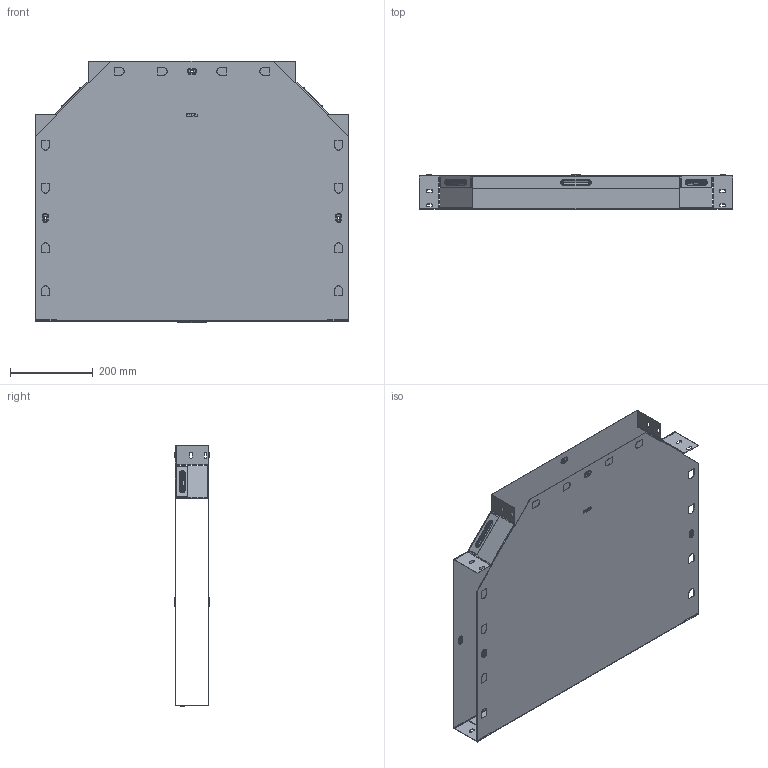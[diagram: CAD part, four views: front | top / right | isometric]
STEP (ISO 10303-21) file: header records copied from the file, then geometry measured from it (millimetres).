
FILE_DESCRIPTION (( 'STEP AP214' ), '1' );
FILE_NAME ('t8050008_捘.STEP', '2019-06-10T08:11:28', ( '砐錪賧瘔蠈錪 Windows' ), ( '' ), 'SwSTEP 2.0', 'SolidWorks 2018', '' );
FILE_SCHEMA (( 'AUTOMOTIVE_DESIGN' ));
Length unit declared in the file: millimetre
Products named in the file (1): t8050008_捘
Bounding box: 756.4 x 83.8 x 631 mm (x, y, z)
Volume: 801499.4 mm3; surface area: 2010782.1 mm2
Topology: 2 solids, 2 shells, 768 faces, 2196 edges, 1428 vertices
Faces by surface type: plane 430, cylinder 224, torus 96, bspline 18
Entity records: 26205 total; most frequent: CARTESIAN_POINT 5473, ORIENTED_EDGE 4392, DIRECTION 4254, EDGE_CURVE 2196, VECTOR 1568, LINE 1568, VERTEX_POINT 1428, AXIS2_PLACEMENT_3D 1343
